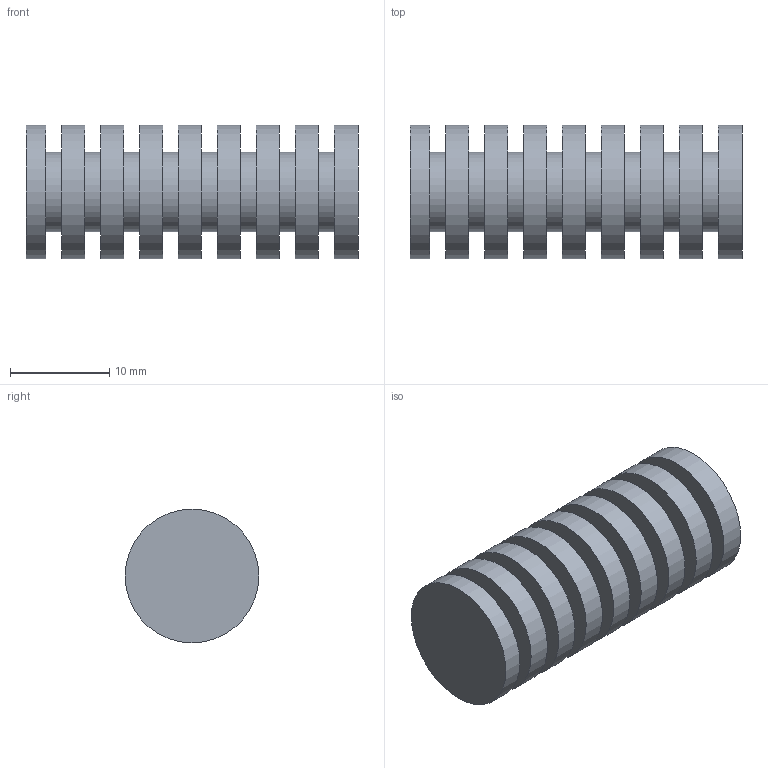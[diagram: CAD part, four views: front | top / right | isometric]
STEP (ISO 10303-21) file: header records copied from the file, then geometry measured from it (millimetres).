
FILE_DESCRIPTION(('Open CASCADE Model'),'2;1');
FILE_NAME('Open CASCADE Shape Model','2026-10-16T00:29:52',('Author'),( 'Open CASCADE'),'Open CASCADE STEP processor 7.9','Open CASCADE 7.9' ,'Unknown');
FILE_SCHEMA(('AUTOMOTIVE_DESIGN { 1 0 10303 214 1 1 1 1 }'));
Length unit declared in the file: millimetre
Products named in the file (1): Open CASCADE STEP translator 7.9 7
Bounding box: 33.5 x 13.5 x 13.5 mm (x, y, z)
Volume: 3606.4 mm3; surface area: 2971.9 mm2
Topology: 1 solids, 1 shells, 35 faces, 51 edges, 34 vertices
Faces by surface type: plane 18, cylinder 17
Full cylindrical faces by diameter (mm): 8 x8, 13.5 x9
Entity records: 1548 total; most frequent: CARTESIAN_POINT 415, DIRECTION 227, ORIENTED_EDGE 102, PCURVE 102, DEFINITIONAL_REPRESENTATION 102, LINE 85, VECTOR 85, AXIS2_PLACEMENT_3D 70
